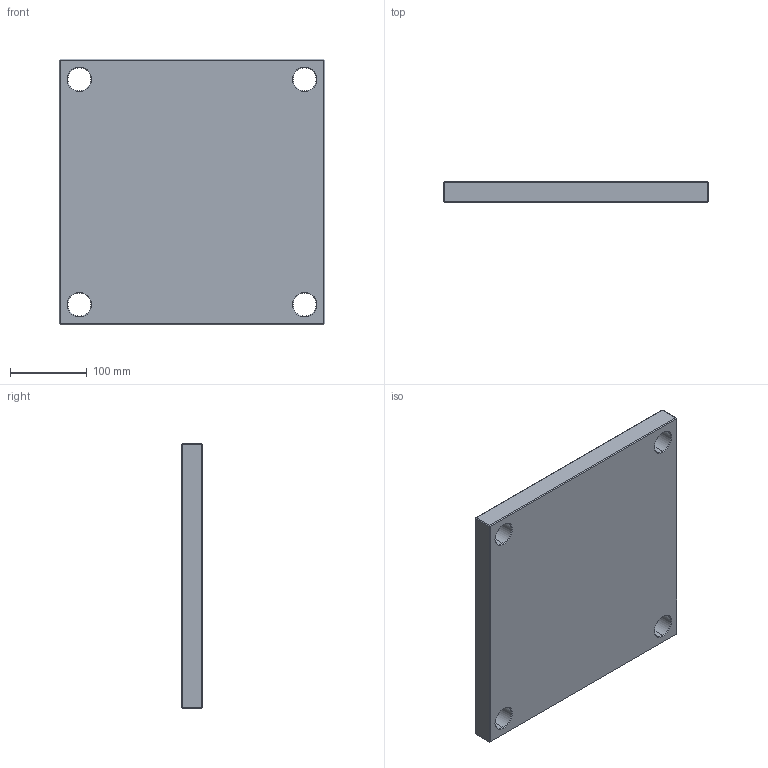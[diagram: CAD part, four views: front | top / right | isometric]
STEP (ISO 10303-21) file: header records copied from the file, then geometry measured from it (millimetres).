
FILE_DESCRIPTION (( 'STEP AP214' ), '1' );
FILE_NAME ('PC-346x346x27.STEP', '2020-04-21T16:45:34', ( 'August' ), ( '' ), 'SwSTEP 2.0', 'SolidWorks 2018', '' );
FILE_SCHEMA (( 'AUTOMOTIVE_DESIGN' ));
Length unit declared in the file: millimetre
Products named in the file (1): PC-346x346x27
Bounding box: 346 x 27 x 346 mm (x, y, z)
Volume: 3136265.8 mm3; surface area: 282870.1 mm2
Topology: 1 solids, 1 shells, 82 faces, 168 edges, 96 vertices
Faces by surface type: plane 34, cone 24, cylinder 24
Entity records: 2170 total; most frequent: DIRECTION 406, CARTESIAN_POINT 347, ORIENTED_EDGE 336, EDGE_CURVE 168, AXIS2_PLACEMENT_3D 155, EDGE_LOOP 98, LINE 96, VECTOR 96
